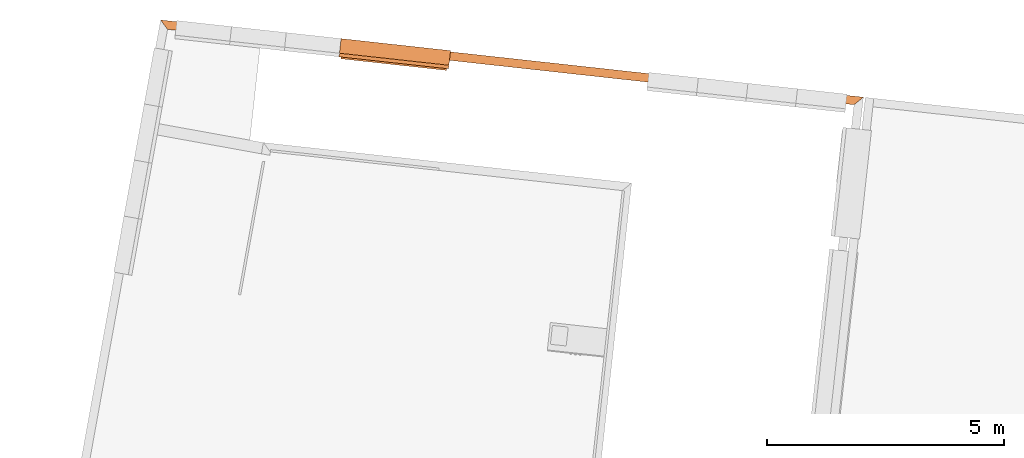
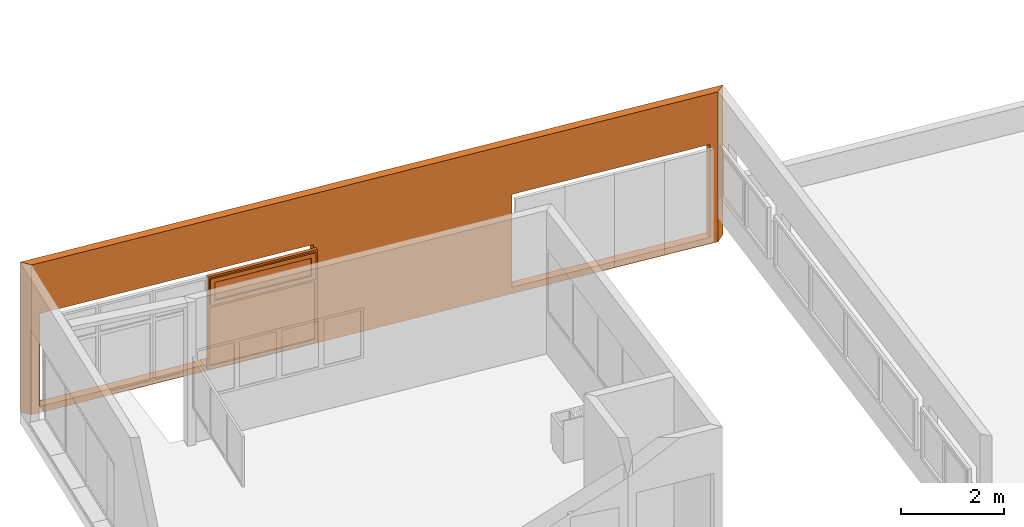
# One storey, part 50 of 52: 2 proxies.
"""IFC2X3 building model written with IfcOpenShell, lengths in metres."""

from ifc_helpers import new_model, entity, si_unit, converted_unit, derived_unit, money_unit, direction, frame, origin_with_axes, place, context, subcontext, project, spatial, polyline, outline, extrude, boolean, open_shell, faceted_brep, surface_model, material, type_object, element, save


model = new_model("IFC2X3")

# Units and contexts
model_context = context("Model", 3, precision=1e-05, world=origin_with_axes(), true_north=direction((0.0, 1.0)))
body_context = subcontext(model_context, "Body", "Model", "MODEL_VIEW")
ifc_project = project(units=[si_unit("LENGTHUNIT", "METRE"), si_unit("AREAUNIT", "SQUARE_METRE"), si_unit("VOLUMEUNIT", "CUBIC_METRE"), converted_unit("PLANEANGLEUNIT", "DEGREE", entity("IfcPlaneAngleMeasure", 0.0174532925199), si_unit("PLANEANGLEUNIT", "RADIAN"), dimensions=[0, 0, 0, 0, 0, 0, 0]), money_unit("CHF"), converted_unit("TIMEUNIT", "Year", entity("IfcTimeMeasure", 31556926.0), si_unit("TIMEUNIT", "SECOND"), dimensions=[0, 0, 1, 0, 0, 0, 0]), si_unit("MASSUNIT", "GRAM", prefix="KILO"), si_unit("THERMODYNAMICTEMPERATUREUNIT", "DEGREE_CELSIUS"), si_unit("LUMINOUSINTENSITYUNIT", "LUMEN"), si_unit("ENERGYUNIT", "JOULE", prefix="MEGA"), derived_unit("THERMALCONDUCTANCEUNIT", [(si_unit("POWERUNIT", "WATT"), 1), (si_unit("LENGTHUNIT", "METRE"), -1), (si_unit("THERMODYNAMICTEMPERATUREUNIT", "KELVIN"), -1)]), derived_unit("SPECIFICHEATCAPACITYUNIT", [(si_unit("ENERGYUNIT", "JOULE"), 1), (si_unit("MASSUNIT", "GRAM", prefix="KILO"), -1), (si_unit("THERMODYNAMICTEMPERATUREUNIT", "KELVIN"), -1)]), derived_unit("MASSDENSITYUNIT", [(si_unit("MASSUNIT", "GRAM", prefix="KILO"), 1), (si_unit("VOLUMEUNIT", "CUBIC_METRE"), -1)])], contexts=[model_context])

# Site, building, storey
site_placement = place(None, frame((0.0, 0.0, 0.0), z_axis=(0.0, 0.0, 1.0), x_axis=(-0.177771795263, -0.984071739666, 0.0)))
site = spatial("IfcSite", under=ifc_project, at=site_placement, Name="Site", CompositionType="ELEMENT")
building_placement = place(site_placement, origin_with_axes())
building = spatial("IfcBuilding", under=site, at=building_placement, Name="Bâtiment", CompositionType="ELEMENT")
storey_placement = place(building_placement, frame((0.0, 0.0, 3.2), z_axis=(0.0, 0.0, 1.0), x_axis=(1.0, 0.0, 0.0)))
storey = spatial("IfcBuildingStorey", under=building, at=storey_placement, Name="R+1", CompositionType="ELEMENT", Elevation=3.2)

# Proxies
ifc_material_1 = material(Name="Matériau de construction IFC")
building_element_proxy_type_1 = type_object("IfcBuildingElementProxyType", Name="Fenêtre variable 21", PredefinedType="NOTDEFINED")
proxy_1_placement = place(storey_placement, frame((97.4750018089, -153.090799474, 0.0), z_axis=(0.0, 0.0, 1.0), x_axis=(0.0692640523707, -0.997598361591, 0.0)))
element("IfcBuildingElementProxy", 1, at=proxy_1_placement, inside=storey, type_object=building_element_proxy_type_1, material=ifc_material_1, Name="Baie angle-Nord", context=body_context, shape_type="SurfaceModel", body=[
    surface_model("IfcShellBasedSurfaceModel", [(2.32, 0.284, 0.02), (0.0, 0.284, 0.02), (0.0, 0.284, 0.01), (2.32, 0.284, 0.01), (0.0, -0.025, -0.00087719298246), (2.32, -0.025, -0.00087719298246), (0.0, -0.025, -0.0308771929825), (2.32, -0.025, -0.0308771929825), (0.0, -0.0125, -0.0183771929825), (2.32, -0.0125, -0.0183771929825)], [open_shell([[[0, 1, 2, 3]], [[3, 2, 4, 5]], [[5, 4, 6, 7]], [[7, 6, 8, 9]]])]),
    faceted_brep([(2.28, 0.36, 2.149), (2.28, 0.3225, 2.149), (2.27, 0.3225, 2.149), (2.27, 0.285, 2.149), (2.32, 0.285, 2.149), (2.32, 0.36, 2.149), (2.28, 0.36, 1.53), (2.28, 0.3225, 1.53), (2.27, 0.3225, 1.54), (2.27, 0.3225, 1.53), (2.27, 0.285, 1.54), (2.27, 0.285, 1.46), (2.27, 0.285, 0.08), (2.32, 0.285, 0.08), (2.32, 0.36, 0.08), (2.27, 0.36, 0.08), (2.27, 0.36, 1.46), (2.27, 0.36, 1.53)], [[[0, 1, 2, 3, 4, 5]], [[1, 0, 6, 7]], [[8, 2, 1, 7, 9]], [[2, 8, 10, 3]], [[10, 11, 12, 13, 4, 3]], [[5, 4, 13, 14]], [[6, 0, 5, 14, 15, 16, 17]], [[6, 17, 9, 7]], [[9, 17, 16, 11, 10, 8]], [[15, 12, 11, 16]], [[14, 13, 12, 15]]]),
    faceted_brep([(0.05, 0.3225, 2.149), (0.04, 0.3225, 2.149), (0.04, 0.36, 2.149), (0.0, 0.36, 2.149), (0.0, 0.285, 2.149), (0.05, 0.285, 2.149), (0.05, 0.3225, 1.54), (0.05, 0.3225, 1.53), (0.04, 0.3225, 1.53), (0.04, 0.36, 1.53), (0.05, 0.36, 1.53), (0.05, 0.36, 1.46), (0.05, 0.36, 0.08), (0.0, 0.36, 0.08), (0.0, 0.285, 0.08), (0.05, 0.285, 0.08), (0.05, 0.285, 1.46), (0.05, 0.285, 1.54)], [[[0, 1, 2, 3, 4, 5]], [[1, 0, 6, 7, 8]], [[9, 2, 1, 8]], [[9, 10, 11, 12, 13, 3, 2]], [[13, 14, 4, 3]], [[14, 15, 16, 17, 5, 4]], [[6, 0, 5, 17]], [[7, 6, 17, 16, 11, 10]], [[10, 9, 8, 7]], [[11, 16, 15, 12]], [[12, 15, 14, 13]]]),
    faceted_brep([(2.27, 0.3225, 1.54), (0.05, 0.3225, 1.54), (0.05, 0.285, 1.54), (2.27, 0.285, 1.54), (0.05, 0.3225, 1.53), (2.27, 0.3225, 1.53), (0.05, 0.36, 1.53), (0.05, 0.36, 1.46), (0.05, 0.285, 1.46), (2.27, 0.285, 1.46), (2.27, 0.36, 1.46), (2.27, 0.36, 1.53)], [[[0, 1, 2, 3]], [[4, 1, 0, 5]], [[4, 6, 7, 8, 2, 1]], [[8, 9, 3, 2]], [[5, 0, 3, 9, 10, 11]], [[11, 6, 4, 5]], [[6, 11, 10, 7]], [[10, 9, 8, 7]]]),
    faceted_brep([(2.28, 0.36, 2.149), (2.28, 0.36, 2.159), (0.04, 0.36, 2.159), (0.04, 0.36, 2.149), (0.0, 0.36, 2.149), (0.0, 0.36, 2.199), (2.32, 0.36, 2.199), (2.32, 0.36, 2.149), (2.28, 0.3225, 2.149), (2.28, 0.3225, 2.159), (0.04, 0.3225, 2.159), (0.04, 0.3225, 2.149), (0.05, 0.3225, 2.149), (0.05, 0.285, 2.149), (0.0, 0.285, 2.149), (0.0, 0.285, 2.199), (2.32, 0.285, 2.199), (2.32, 0.285, 2.149), (2.27, 0.285, 2.149), (2.27, 0.3225, 2.149)], [[[0, 1, 2, 3, 4, 5, 6, 7]], [[1, 0, 8, 9]], [[2, 1, 9, 10]], [[3, 2, 10, 11]], [[11, 12, 13, 14, 4, 3]], [[4, 14, 15, 5]], [[5, 15, 16, 6]], [[6, 16, 17, 7]], [[8, 0, 7, 17, 18, 19]], [[12, 11, 10, 9, 8, 19]], [[12, 19, 18, 13]], [[14, 13, 18, 17, 16, 15]]]),
    faceted_brep([(2.27, 0.285, 0.08), (2.32, 0.285, 0.08), (2.32, 0.36, 0.08), (2.27, 0.36, 0.08), (0.05, 0.285, 0.08), (0.0, 0.285, 0.08), (0.0, 0.285, 0.0), (2.32, 0.285, 0.0), (2.32, 0.36, 0.0), (0.0, 0.36, 0.0), (0.0, 0.36, 0.08), (0.05, 0.36, 0.08)], [[[0, 1, 2, 3]], [[0, 4, 5, 6, 7, 1]], [[1, 7, 8, 2]], [[3, 2, 8, 9, 10, 11]], [[4, 0, 3, 11]], [[5, 4, 11, 10]], [[6, 5, 10, 9]], [[7, 6, 9, 8]]]),
    faceted_brep([(2.18, 0.3225, 2.059), (2.28, 0.3225, 2.059), (2.28, 0.3975, 2.059), (2.18, 0.3975, 2.059), (2.18, 0.3225, 1.63), (2.28, 0.3225, 1.63), (2.28, 0.3975, 1.63), (2.18, 0.3975, 1.63)], [[[0, 1, 2, 3]], [[0, 4, 5, 1]], [[1, 5, 6, 2]], [[3, 2, 6, 7]], [[4, 0, 3, 7]], [[5, 4, 7, 6]]]),
    faceted_brep([(0.14, 0.3225, 1.63), (0.04, 0.3225, 1.63), (0.04, 0.3975, 1.63), (0.14, 0.3975, 1.63), (0.14, 0.3225, 2.059), (0.04, 0.3225, 2.059), (0.04, 0.3975, 2.059), (0.14, 0.3975, 2.059)], [[[0, 1, 2, 3]], [[0, 4, 5, 1]], [[1, 5, 6, 2]], [[3, 2, 6, 7]], [[4, 0, 3, 7]], [[5, 4, 7, 6]]]),
    faceted_brep([(0.04, 0.3225, 1.53), (0.04, 0.3225, 1.63), (0.04, 0.3975, 1.63), (0.04, 0.3975, 1.53), (2.28, 0.3225, 1.53), (2.28, 0.3225, 1.63), (2.18, 0.3225, 1.63), (0.14, 0.3225, 1.63), (0.14, 0.3975, 1.63), (2.18, 0.3975, 1.63), (2.28, 0.3975, 1.63), (2.28, 0.3975, 1.53)], [[[0, 1, 2, 3]], [[0, 4, 5, 6, 7, 1]], [[1, 7, 8, 2]], [[3, 2, 8, 9, 10, 11]], [[4, 0, 3, 11]], [[5, 4, 11, 10]], [[6, 5, 10, 9]], [[7, 6, 9, 8]]]),
    faceted_brep([(2.28, 0.3225, 2.159), (2.28, 0.3225, 2.059), (2.28, 0.3975, 2.059), (2.28, 0.3975, 2.159), (0.04, 0.3225, 2.159), (0.04, 0.3225, 2.059), (0.14, 0.3225, 2.059), (2.18, 0.3225, 2.059), (2.18, 0.3975, 2.059), (0.14, 0.3975, 2.059), (0.04, 0.3975, 2.059), (0.04, 0.3975, 2.159)], [[[0, 1, 2, 3]], [[0, 4, 5, 6, 7, 1]], [[1, 7, 8, 2]], [[3, 2, 8, 9, 10, 11]], [[4, 0, 3, 11]], [[5, 4, 11, 10]], [[6, 5, 10, 9]], [[7, 6, 9, 8]]]),
    surface_model("IfcShellBasedSurfaceModel", [(1.2, 0.355, 1.63), (2.18, 0.355, 1.63), (2.18, 0.355, 2.059), (1.2, 0.355, 2.059)], [open_shell([[[0, 1, 2, 3]]])]),
    surface_model("IfcShellBasedSurfaceModel", [(1.2, 0.365, 1.63), (1.2, 0.365, 2.059), (2.18, 0.365, 2.059), (2.18, 0.365, 1.63)], [open_shell([[[0, 1, 2, 3]]])]),
    surface_model("IfcShellBasedSurfaceModel", [(0.14, 0.355, 1.63), (1.12, 0.355, 1.63), (1.12, 0.355, 2.059), (0.14, 0.355, 2.059)], [open_shell([[[0, 1, 2, 3]]])]),
    surface_model("IfcShellBasedSurfaceModel", [(0.14, 0.365, 1.63), (0.14, 0.365, 2.059), (1.12, 0.365, 2.059), (1.12, 0.365, 1.63)], [open_shell([[[0, 1, 2, 3]]])]),
    faceted_brep([(1.2, 0.3475, 1.63), (1.12, 0.3475, 1.63), (1.12, 0.3725, 1.63), (1.2, 0.3725, 1.63), (1.2, 0.3475, 2.059), (1.12, 0.3475, 2.059), (1.12, 0.3725, 2.059), (1.2, 0.3725, 2.059)], [[[0, 1, 2, 3]], [[0, 4, 5, 1]], [[1, 5, 6, 2]], [[3, 2, 6, 7]], [[4, 0, 3, 7]], [[5, 4, 7, 6]]]),
    surface_model("IfcShellBasedSurfaceModel", [(1.2, 0.3175, 0.08), (2.27, 0.3175, 0.08), (2.27, 0.3175, 1.46), (1.2, 0.3175, 1.46)], [open_shell([[[0, 1, 2, 3]]])]),
    surface_model("IfcShellBasedSurfaceModel", [(1.2, 0.3275, 0.08), (1.2, 0.3275, 1.46), (2.27, 0.3275, 1.46), (2.27, 0.3275, 0.08)], [open_shell([[[0, 1, 2, 3]]])]),
    surface_model("IfcShellBasedSurfaceModel", [(0.05, 0.3175, 0.08), (1.12, 0.3175, 0.08), (1.12, 0.3175, 1.46), (0.05, 0.3175, 1.46)], [open_shell([[[0, 1, 2, 3]]])]),
    surface_model("IfcShellBasedSurfaceModel", [(0.05, 0.3275, 0.08), (0.05, 0.3275, 1.46), (1.12, 0.3275, 1.46), (1.12, 0.3275, 0.08)], [open_shell([[[0, 1, 2, 3]]])]),
    faceted_brep([(1.2, 0.31, 0.08), (1.12, 0.31, 0.08), (1.12, 0.335, 0.08), (1.2, 0.335, 0.08), (1.2, 0.31, 1.46), (1.12, 0.31, 1.46), (1.12, 0.335, 1.46), (1.2, 0.335, 1.46)], [[[0, 1, 2, 3]], [[0, 4, 5, 1]], [[1, 5, 6, 2]], [[3, 2, 6, 7]], [[4, 0, 3, 7]], [[5, 4, 7, 6]]]),
])
ifc_material_2 = material(Name="_BA banché RAL9007")
building_element_proxy_type_2 = type_object("IfcBuildingElementProxyType", Name="_M ext 18 +18 gris 360", PredefinedType="NOTDEFINED")
proxy_2_placement = place(storey_placement, frame((97.9003562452, -159.217107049, -0.15), z_axis=(0.0, 0.0, 1.0), x_axis=(-0.0692640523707, 0.997598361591, 0.0)))
element("IfcBuildingElementProxy", 2, at=proxy_2_placement, inside=storey, type_object=building_element_proxy_type_2, material=ifc_material_2, Name="M ext-Nord", context=body_context, shape_type="CSG", body=[
    boolean("DIFFERENCE", boolean("DIFFERENCE", extrude(outline(polyline([(0.167935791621, -0.18), (14.7105297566, -0.18), (14.8905297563, 0.0), (0.0, 0.0), (0.167935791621, -0.18)])), origin_with_axes(), (0.0, 0.0, 1.0), 3.55), faceted_brep([(14.5410534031, 0.0, 0.1525), (10.3410534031, 0.0, 0.1525), (10.3410534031, 0.0, 2.3515), (14.5410534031, 0.0, 2.3515), (14.5410534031, -0.18, 0.1525), (10.3410534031, -0.18, 0.1525), (10.3410534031, -0.18, 2.3515), (14.5410534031, -0.18, 2.3515)], [[[0, 1, 2, 3]], [[4, 5, 1, 0]], [[5, 6, 2, 1]], [[6, 7, 3, 2]], [[7, 4, 0, 3]], [[4, 7, 6, 5]]])), faceted_brep([(6.14105617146, 0.0, 0.15), (0.341056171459, 0.0, 0.15), (0.341056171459, 0.0, 2.349), (6.14105617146, 0.0, 2.349), (6.14105617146, -0.18, 0.15), (0.341056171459, -0.18, 0.15), (0.341056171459, -0.18, 2.349), (6.14105617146, -0.18, 2.349)], [[[0, 1, 2, 3]], [[4, 5, 1, 0]], [[5, 6, 2, 1]], [[6, 7, 3, 2]], [[7, 4, 0, 3]], [[4, 7, 6, 5]]])),
])

save(model, "model.ifc")
